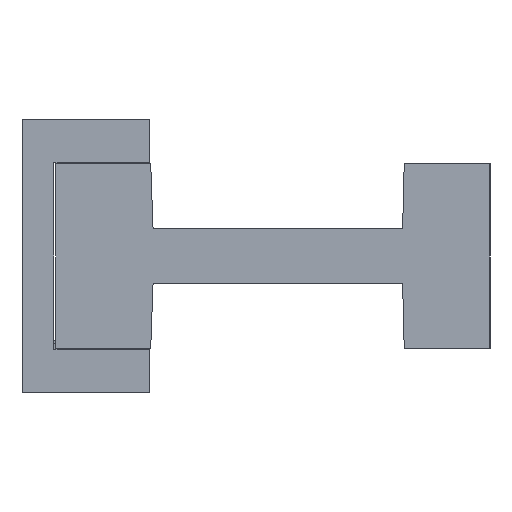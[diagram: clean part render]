
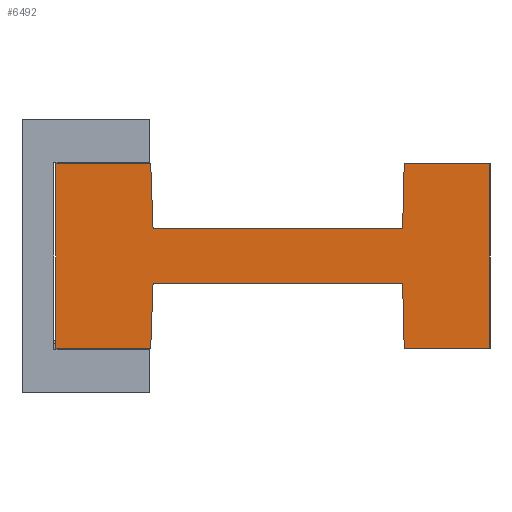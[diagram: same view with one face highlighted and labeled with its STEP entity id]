
A CAD part, left-side view. The second image highlights one B-rep face of the part: STEP entity #6492.
In plain terms, the highlighted planar face has unit normal (-1, 0, 0).
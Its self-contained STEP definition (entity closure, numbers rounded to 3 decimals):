
#178 = DIRECTION ( 'NONE',  ( 0., 0., -1. ) ) ;
#308 = EDGE_CURVE ( 'NONE', #1285, #1744, #7320, .T. ) ;
#418 = CARTESIAN_POINT ( 'NONE',  ( -1.487, -4.3, 232.26 ) ) ;
#682 = CARTESIAN_POINT ( 'NONE',  ( -1.487, -4.3, 255.96 ) ) ;
#696 = DIRECTION ( 'NONE',  ( 0., 1., 0. ) ) ;
#805 = EDGE_CURVE ( 'NONE', #5923, #2022, #6244, .T. ) ;
#996 = EDGE_LOOP ( 'NONE', ( #5925, #3366, #6439, #2443, #5218, #3449, #6082, #4012, #2249, #3567, #3150, #2010 ) ) ;
#1106 = VECTOR ( 'NONE', #2457, 1000. ) ;
#1171 = VERTEX_POINT ( 'NONE', #3235 ) ;
#1204 = LINE ( 'NONE', #7879, #1106 ) ;
#1285 = VERTEX_POINT ( 'NONE', #1985 ) ;
#1350 = CARTESIAN_POINT ( 'NONE',  ( -1.487, -48.8, 240.61 ) ) ;
#1413 = LINE ( 'NONE', #3309, #6988 ) ;
#1515 = CARTESIAN_POINT ( 'NONE',  ( -1.487, -60., 232.26 ) ) ;
#1536 = PLANE ( 'NONE',  #7462 ) ;
#1678 = LINE ( 'NONE', #4872, #4249 ) ;
#1744 = VERTEX_POINT ( 'NONE', #418 ) ;
#1748 = CARTESIAN_POINT ( 'NONE',  ( -1.487, -48.8, 247.61 ) ) ;
#1846 = VECTOR ( 'NONE', #7280, 1000. ) ;
#1924 = EDGE_CURVE ( 'NONE', #5923, #1171, #5417, .T. ) ;
#1985 = CARTESIAN_POINT ( 'NONE',  ( -1.487, -4.3, 255.96 ) ) ;
#2010 = ORIENTED_EDGE ( 'NONE', *, *, #7668, .T. ) ;
#2022 = VERTEX_POINT ( 'NONE', #2425 ) ;
#2249 = ORIENTED_EDGE ( 'NONE', *, *, #4235, .T. ) ;
#2373 = VECTOR ( 'NONE', #4544, 1000. ) ;
#2425 = CARTESIAN_POINT ( 'NONE',  ( -1.487, -60., 255.96 ) ) ;
#2443 = ORIENTED_EDGE ( 'NONE', *, *, #2823, .F. ) ;
#2457 = DIRECTION ( 'NONE',  ( 0., 1., 0. ) ) ;
#2665 = VECTOR ( 'NONE', #178, 1000. ) ;
#2823 = EDGE_CURVE ( 'NONE', #3179, #3822, #1678, .T. ) ;
#3023 = DIRECTION ( 'NONE',  ( 0., 1., 0. ) ) ;
#3063 = CARTESIAN_POINT ( 'NONE',  ( -1.487, -16.5, 232.26 ) ) ;
#3150 = ORIENTED_EDGE ( 'NONE', *, *, #4896, .T. ) ;
#3169 = CARTESIAN_POINT ( 'NONE',  ( -1.487, -16.8, 240.61 ) ) ;
#3179 = VERTEX_POINT ( 'NONE', #1350 ) ;
#3193 = LINE ( 'NONE', #8384, #1846 ) ;
#3235 = CARTESIAN_POINT ( 'NONE',  ( -1.487, -49., 232.26 ) ) ;
#3309 = CARTESIAN_POINT ( 'NONE',  ( -1.487, -16.8, 247.61 ) ) ;
#3366 = ORIENTED_EDGE ( 'NONE', *, *, #7548, .F. ) ;
#3419 = LINE ( 'NONE', #6097, #5840 ) ;
#3449 = ORIENTED_EDGE ( 'NONE', *, *, #1924, .F. ) ;
#3567 = ORIENTED_EDGE ( 'NONE', *, *, #7762, .T. ) ;
#3650 = CARTESIAN_POINT ( 'NONE',  ( -1.487, -48.8, 240.61 ) ) ;
#3691 = CARTESIAN_POINT ( 'NONE',  ( -1.487, -60., 244.11 ) ) ;
#3734 = DIRECTION ( 'NONE',  ( 0., 0., 1. ) ) ;
#3822 = VERTEX_POINT ( 'NONE', #6699 ) ;
#3884 = LINE ( 'NONE', #8483, #4850 ) ;
#4012 = ORIENTED_EDGE ( 'NONE', *, *, #8330, .T. ) ;
#4087 = DIRECTION ( 'NONE',  ( 0., 1., 0. ) ) ;
#4123 = FACE_OUTER_BOUND ( 'NONE', #996, .T. ) ;
#4133 = DIRECTION ( 'NONE',  ( 0., 1., 0. ) ) ;
#4235 = EDGE_CURVE ( 'NONE', #6129, #5071, #3884, .T. ) ;
#4249 = VECTOR ( 'NONE', #3023, 1000. ) ;
#4544 = DIRECTION ( 'NONE',  ( 0., 0.036, -0.999 ) ) ;
#4784 = EDGE_CURVE ( 'NONE', #3822, #5443, #5877, .T. ) ;
#4807 = LINE ( 'NONE', #3650, #6438 ) ;
#4850 = VECTOR ( 'NONE', #7210, 1000. ) ;
#4872 = CARTESIAN_POINT ( 'NONE',  ( -1.487, -16.8, 240.61 ) ) ;
#4896 = EDGE_CURVE ( 'NONE', #5790, #7116, #3419, .T. ) ;
#4946 = DIRECTION ( 'NONE',  ( 0., 0., 1. ) ) ;
#5071 = VERTEX_POINT ( 'NONE', #1748 ) ;
#5145 = CARTESIAN_POINT ( 'NONE',  ( -1.487, -49., 255.96 ) ) ;
#5218 = ORIENTED_EDGE ( 'NONE', *, *, #8027, .F. ) ;
#5316 = VECTOR ( 'NONE', #696, 1000. ) ;
#5417 = LINE ( 'NONE', #1515, #5316 ) ;
#5421 = CARTESIAN_POINT ( 'NONE',  ( -1.487, -60., 232.26 ) ) ;
#5443 = VERTEX_POINT ( 'NONE', #3063 ) ;
#5790 = VERTEX_POINT ( 'NONE', #6001 ) ;
#5840 = VECTOR ( 'NONE', #7945, 1000. ) ;
#5877 = LINE ( 'NONE', #3169, #2373 ) ;
#5923 = VERTEX_POINT ( 'NONE', #5421 ) ;
#5925 = ORIENTED_EDGE ( 'NONE', *, *, #308, .T. ) ;
#6001 = CARTESIAN_POINT ( 'NONE',  ( -1.487, -16.8, 247.61 ) ) ;
#6082 = ORIENTED_EDGE ( 'NONE', *, *, #805, .T. ) ;
#6097 = CARTESIAN_POINT ( 'NONE',  ( -1.487, -16.8, 247.61 ) ) ;
#6129 = VERTEX_POINT ( 'NONE', #5145 ) ;
#6244 = LINE ( 'NONE', #6989, #8076 ) ;
#6361 = CARTESIAN_POINT ( 'NONE',  ( -1.487, -16.5, 255.96 ) ) ;
#6438 = VECTOR ( 'NONE', #6891, 1000. ) ;
#6439 = ORIENTED_EDGE ( 'NONE', *, *, #4784, .F. ) ;
#6456 = DIRECTION ( 'NONE',  ( -1., 0., 0. ) ) ;
#6492 = ADVANCED_FACE ( 'NONE', ( #4123 ), #1536, .T. ) ;
#6640 = LINE ( 'NONE', #682, #7413 ) ;
#6699 = CARTESIAN_POINT ( 'NONE',  ( -1.487, -16.8, 240.61 ) ) ;
#6891 = DIRECTION ( 'NONE',  ( 0., 0.024, 1. ) ) ;
#6988 = VECTOR ( 'NONE', #4133, 1000. ) ;
#6989 = CARTESIAN_POINT ( 'NONE',  ( -1.487, -60., 244.11 ) ) ;
#7116 = VERTEX_POINT ( 'NONE', #6361 ) ;
#7210 = DIRECTION ( 'NONE',  ( 0., 0.024, -1. ) ) ;
#7280 = DIRECTION ( 'NONE',  ( 0., 1., 0. ) ) ;
#7320 = LINE ( 'NONE', #8055, #2665 ) ;
#7413 = VECTOR ( 'NONE', #4087, 1000. ) ;
#7462 = AXIS2_PLACEMENT_3D ( 'NONE', #3691, #6456, #3734 ) ;
#7548 = EDGE_CURVE ( 'NONE', #5443, #1744, #1204, .T. ) ;
#7668 = EDGE_CURVE ( 'NONE', #7116, #1285, #6640, .T. ) ;
#7762 = EDGE_CURVE ( 'NONE', #5071, #5790, #1413, .T. ) ;
#7879 = CARTESIAN_POINT ( 'NONE',  ( -1.487, -4.3, 232.26 ) ) ;
#7945 = DIRECTION ( 'NONE',  ( 0., 0.036, 0.999 ) ) ;
#8027 = EDGE_CURVE ( 'NONE', #1171, #3179, #4807, .T. ) ;
#8055 = CARTESIAN_POINT ( 'NONE',  ( -1.487, -4.3, 255.96 ) ) ;
#8076 = VECTOR ( 'NONE', #4946, 1000. ) ;
#8330 = EDGE_CURVE ( 'NONE', #2022, #6129, #3193, .T. ) ;
#8384 = CARTESIAN_POINT ( 'NONE',  ( -1.487, -60., 255.96 ) ) ;
#8483 = CARTESIAN_POINT ( 'NONE',  ( -1.487, -48.8, 247.61 ) ) ;
